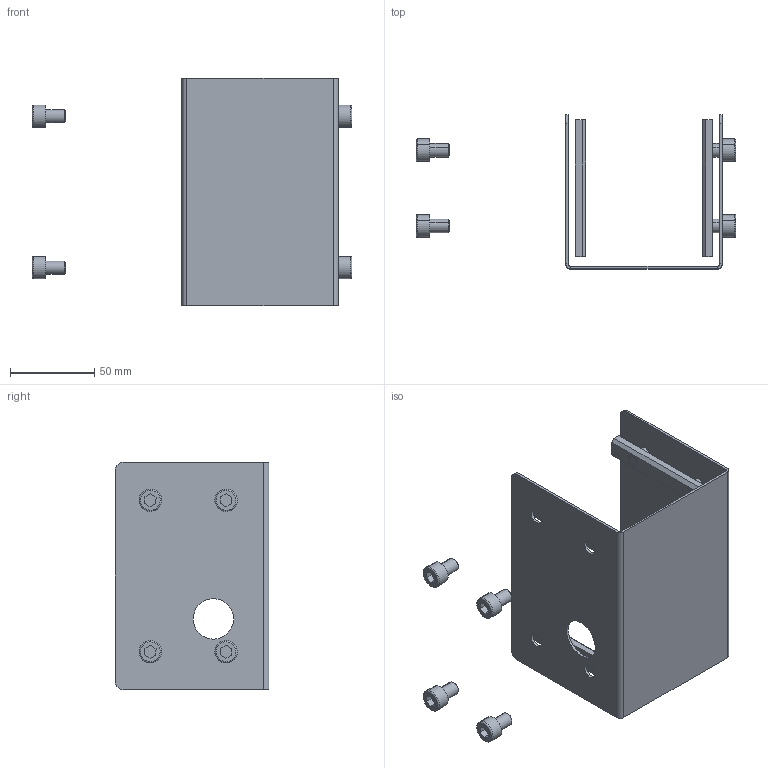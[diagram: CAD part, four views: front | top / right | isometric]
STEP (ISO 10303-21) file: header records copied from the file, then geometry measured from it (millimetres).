
FILE_DESCRIPTION (( 'STEP AP203' ), '1' );
FILE_NAME ('900.400.012.STEP', '2018-02-27T07:43:51', ( '' ), ( '' ), 'SwSTEP 2.0', 'SolidWorks 2016', '' );
FILE_SCHEMA (( 'CONFIG_CONTROL_DESIGN' ));
Length unit declared in the file: millimetre
Products named in the file (4): 900.400.012-L; 900.400.012; VITI TCEI UNI 5931_M8x12 UNI 5931; 084.302.016
Assembly tree (13 placements, depth 2):
  900.400.012
    900.400.012-L
    084.302.016  x4
    VITI TCEI UNI 5931_M8x12 UNI 5931  x8
Bounding box: 189.8 x 91.5 x 135 mm (x, y, z)
Volume: 87479.4 mm3; surface area: 92617.7 mm2
Topology: 13 solids, 13 shells, 238 faces, 540 edges, 344 vertices
Faces by surface type: plane 130, cylinder 76, torus 16, cone 16
Entity records: 3008 total; most frequent: DIRECTION 446, CARTESIAN_POINT 392, ORIENTED_EDGE 368, EDGE_CURVE 184, AXIS2_PLACEMENT_3D 170, VERTEX_POINT 116, VECTOR 106, LINE 106
